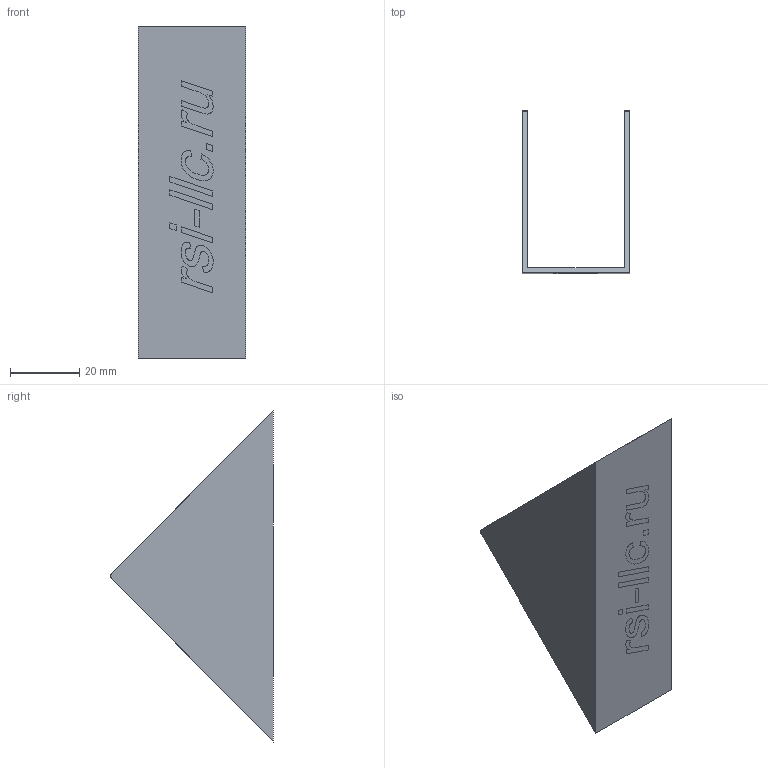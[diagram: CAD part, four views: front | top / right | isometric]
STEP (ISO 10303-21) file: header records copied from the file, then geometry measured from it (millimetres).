
FILE_DESCRIPTION (( 'STEP AP214' ), '1' );
FILE_NAME ('4129.STEP', '2022-08-18T10:28:17', ( 'Home' ), ( '' ), 'SwSTEP 2.0', 'SolidWorks 2020', '' );
FILE_SCHEMA (( 'AUTOMOTIVE_DESIGN' ));
Length unit declared in the file: millimetre
Products named in the file (1): 4129
Bounding box: 31 x 47.1 x 96 mm (x, y, z)
Volume: 10951 mm3; surface area: 15562.1 mm2
Topology: 12 solids, 12 shells, 115 faces, 273 edges, 182 vertices
Faces by surface type: plane 81, bspline 32, cylinder 2
Entity records: 6315 total; most frequent: CARTESIAN_POINT 2571, ORIENTED_EDGE 546, DIRECTION 381, EDGE_CURVE 273, LINE 205, VECTOR 205, VERTEX_POINT 182, UNCERTAINTY_MEASURE_WITH_UNIT 119
